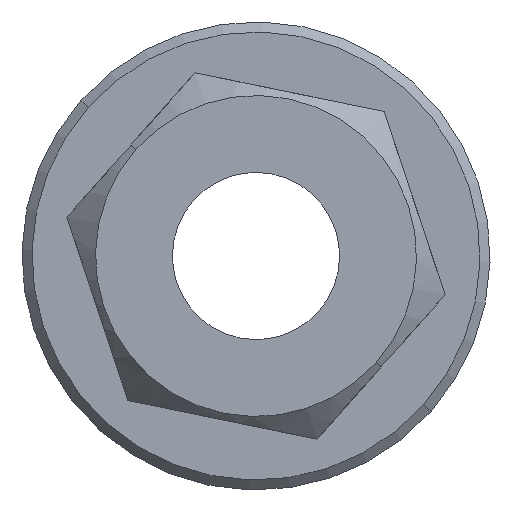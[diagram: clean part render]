
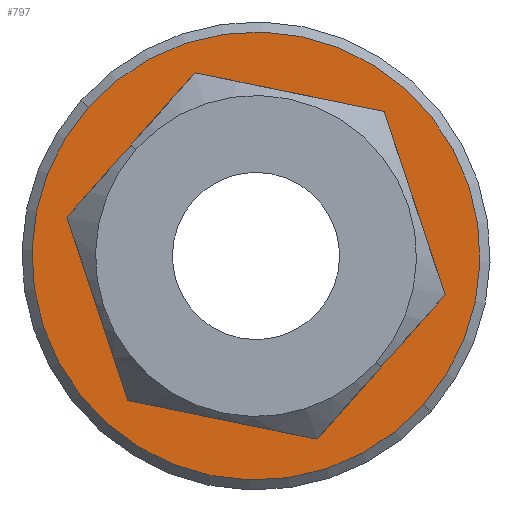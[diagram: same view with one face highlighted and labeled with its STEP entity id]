
A CAD part, front view. The second image highlights one B-rep face of the part: STEP entity #797.
In plain terms, the highlighted planar face has unit normal (0, -1, 0).
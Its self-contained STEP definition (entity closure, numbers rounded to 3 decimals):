
#13 = DIRECTION ( 'NONE',  ( -0.316, 0., 0.949 ) ) ;
#23 = VECTOR ( 'NONE', #29, 1000. ) ;
#29 = DIRECTION ( 'NONE',  ( 0.316, 0., -0.949 ) ) ;
#33 = CARTESIAN_POINT ( 'NONE',  ( 133.668, 10., -23.118 ) ) ;
#80 = AXIS2_PLACEMENT_3D ( 'NONE', #528, #816, #256 ) ;
#91 = VERTEX_POINT ( 'NONE', #273 ) ;
#98 = EDGE_CURVE ( 'NONE', #274, #91, #200, .T. ) ;
#101 = ORIENTED_EDGE ( 'NONE', *, *, #806, .T. ) ;
#121 = EDGE_CURVE ( 'NONE', #372, #162, #501, .T. ) ;
#152 = CARTESIAN_POINT ( 'NONE',  ( 137.5, 10., -18.8 ) ) ;
#162 = VERTEX_POINT ( 'NONE', #463 ) ;
#163 = VECTOR ( 'NONE', #497, 1000. ) ;
#164 = LINE ( 'NONE', #225, #713 ) ;
#181 = ORIENTED_EDGE ( 'NONE', *, *, #479, .T. ) ;
#186 = VECTOR ( 'NONE', #13, 1000. ) ;
#191 = EDGE_CURVE ( 'NONE', #162, #657, #469, .T. ) ;
#196 = CARTESIAN_POINT ( 'NONE',  ( 143.156, 10., -19.96 ) ) ;
#198 = ORIENTED_EDGE ( 'NONE', *, *, #121, .T. ) ;
#200 = CIRCLE ( 'NONE', #80, 6.7 ) ;
#225 = CARTESIAN_POINT ( 'NONE',  ( 143.156, 10., -19.96 ) ) ;
#228 = AXIS2_PLACEMENT_3D ( 'NONE', #152, #401, #596 ) ;
#248 = CARTESIAN_POINT ( 'NONE',  ( 131.844, 10., -17.64 ) ) ;
#256 = DIRECTION ( 'NONE',  ( -0.748, 0., 0.664 ) ) ;
#273 = CARTESIAN_POINT ( 'NONE',  ( 142.511, 10., -23.247 ) ) ;
#274 = VERTEX_POINT ( 'NONE', #745 ) ;
#347 = VERTEX_POINT ( 'NONE', #442 ) ;
#352 = CARTESIAN_POINT ( 'NONE',  ( 137.5, 10., -18.8 ) ) ;
#372 = VERTEX_POINT ( 'NONE', #819 ) ;
#401 = DIRECTION ( 'NONE',  ( 0., -1., 0. ) ) ;
#405 = CARTESIAN_POINT ( 'NONE',  ( 141.332, 10., -14.482 ) ) ;
#418 = PLANE ( 'NONE',  #820 ) ;
#426 = EDGE_CURVE ( 'NONE', #657, #662, #475, .T. ) ;
#433 = VERTEX_POINT ( 'NONE', #33 ) ;
#442 = CARTESIAN_POINT ( 'NONE',  ( 139.324, 10., -24.278 ) ) ;
#463 = CARTESIAN_POINT ( 'NONE',  ( 135.676, 10., -13.322 ) ) ;
#465 = LINE ( 'NONE', #672, #186 ) ;
#468 = DIRECTION ( 'NONE',  ( 0., 1., 0. ) ) ;
#469 = LINE ( 'NONE', #785, #545 ) ;
#475 = LINE ( 'NONE', #405, #23 ) ;
#476 = FACE_OUTER_BOUND ( 'NONE', #815, .T. ) ;
#479 = EDGE_CURVE ( 'NONE', #433, #372, #465, .T. ) ;
#481 = LINE ( 'NONE', #733, #503 ) ;
#497 = DIRECTION ( 'NONE',  ( 0.664, 0., 0.748 ) ) ;
#501 = LINE ( 'NONE', #248, #163 ) ;
#503 = VECTOR ( 'NONE', #549, 1000. ) ;
#524 = EDGE_LOOP ( 'NONE', ( #590, #786, #754, #181, #198, #723 ) ) ;
#528 = CARTESIAN_POINT ( 'NONE',  ( 137.5, 10., -18.8 ) ) ;
#545 = VECTOR ( 'NONE', #609, 1000. ) ;
#549 = DIRECTION ( 'NONE',  ( -0.98, 0., 0.201 ) ) ;
#590 = ORIENTED_EDGE ( 'NONE', *, *, #426, .T. ) ;
#596 = DIRECTION ( 'NONE',  ( 0.748, 0., -0.664 ) ) ;
#608 = DIRECTION ( 'NONE',  ( 0.748, 0., -0.664 ) ) ;
#609 = DIRECTION ( 'NONE',  ( 0.98, 0., -0.201 ) ) ;
#657 = VERTEX_POINT ( 'NONE', #762 ) ;
#662 = VERTEX_POINT ( 'NONE', #196 ) ;
#672 = CARTESIAN_POINT ( 'NONE',  ( 133.668, 10., -23.118 ) ) ;
#679 = CIRCLE ( 'NONE', #228, 6.7 ) ;
#713 = VECTOR ( 'NONE', #801, 1000. ) ;
#723 = ORIENTED_EDGE ( 'NONE', *, *, #191, .T. ) ;
#733 = CARTESIAN_POINT ( 'NONE',  ( 139.324, 10., -24.278 ) ) ;
#745 = CARTESIAN_POINT ( 'NONE',  ( 132.489, 10., -14.353 ) ) ;
#746 = ORIENTED_EDGE ( 'NONE', *, *, #98, .T. ) ;
#754 = ORIENTED_EDGE ( 'NONE', *, *, #766, .T. ) ;
#762 = CARTESIAN_POINT ( 'NONE',  ( 141.332, 10., -14.482 ) ) ;
#766 = EDGE_CURVE ( 'NONE', #347, #433, #481, .T. ) ;
#783 = EDGE_CURVE ( 'NONE', #662, #347, #164, .T. ) ;
#785 = CARTESIAN_POINT ( 'NONE',  ( 135.676, 10., -13.322 ) ) ;
#786 = ORIENTED_EDGE ( 'NONE', *, *, #783, .T. ) ;
#794 = FACE_BOUND ( 'NONE', #524, .T. ) ;
#797 = ADVANCED_FACE ( 'NONE', ( #794, #476 ), #418, .F. ) ;
#801 = DIRECTION ( 'NONE',  ( -0.664, 0., -0.748 ) ) ;
#806 = EDGE_CURVE ( 'NONE', #91, #274, #679, .T. ) ;
#815 = EDGE_LOOP ( 'NONE', ( #746, #101 ) ) ;
#816 = DIRECTION ( 'NONE',  ( 0., -1., 0. ) ) ;
#819 = CARTESIAN_POINT ( 'NONE',  ( 131.844, 10., -17.64 ) ) ;
#820 = AXIS2_PLACEMENT_3D ( 'NONE', #352, #468, #608 ) ;
